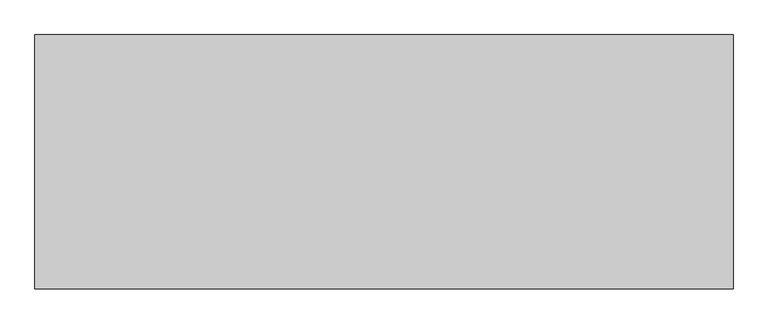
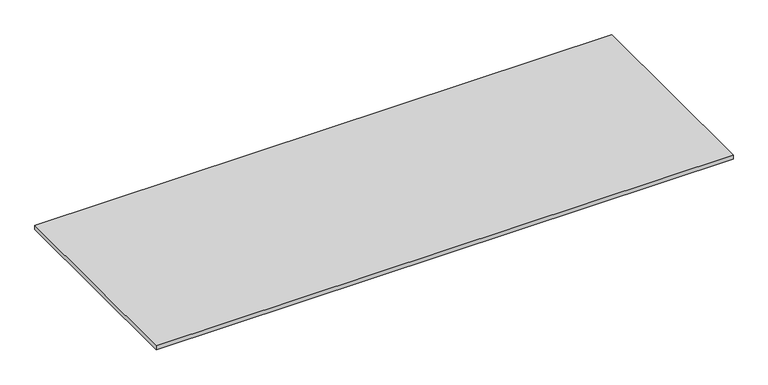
"""IFC4 building model written with IfcOpenShell, lengths in millimetres: furniture geometry, Furniture_Other-Furniture_Molteni&C_Prime_Cooker-Top : Cooker Top - th 12 mm - Ceramic - Inalco Silk Gris Natural."""

from ifc_helpers import new_model, si_unit, origin, origin_with_axes, place, context, project, spatial, polyline, outline, extrude, source, transform, mapped, element, save


def furniture_64351078(model_context):
    return source(origin(), model_context, "Body", "SweptSolid", [
        extrude(outline(polyline([(-851.5, -310.0), (-851.5, 310.0), (851.5, 310.0), (851.5, -310.0), (-851.5, -310.0)])), origin_with_axes(), (0.0, 0.0, 1.0), 12.0),
    ])


if __name__ == "__main__":
    model = new_model("IFC4")
    model_context = context("Model", 3, world=origin())
    ifc_project = project(units=[si_unit("LENGTHUNIT", "METRE", prefix="MILLI")], contexts=[model_context])
    site = spatial("IfcSite", under=ifc_project)
    building = spatial("IfcBuilding", under=site)
    placement = place(None, origin())
    furniture_shape = furniture_64351078(model_context)
    element("IfcFurniture", 1, ObjectType="Furniture_Other-Furniture_Molteni&C_Prime_Cooker-Top : Cooker Top - th 12 mm - Ceramic - Inalco Silk Gris Natural", at=placement, inside=building, context=model_context, shape_type="MappedRepresentation", body=[
        mapped(furniture_shape, transform((0.0, 0.0, 0.0), x_axis=(1.0, 0.0, 0.0), y_axis=(0.0, 1.0, 0.0), z_axis=(0.0, 0.0, 1.0))),
    ])
    save(model, "model.ifc")
